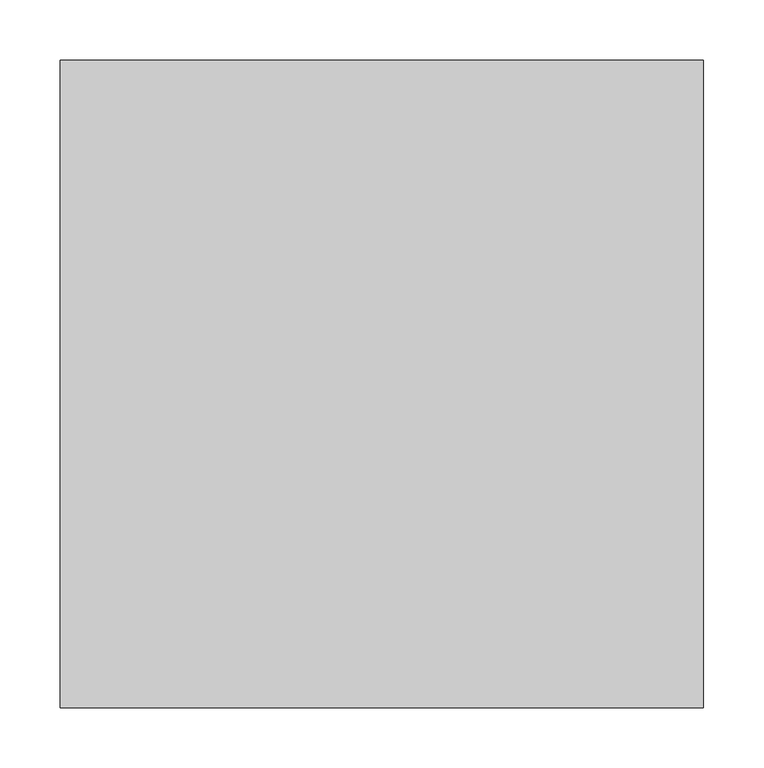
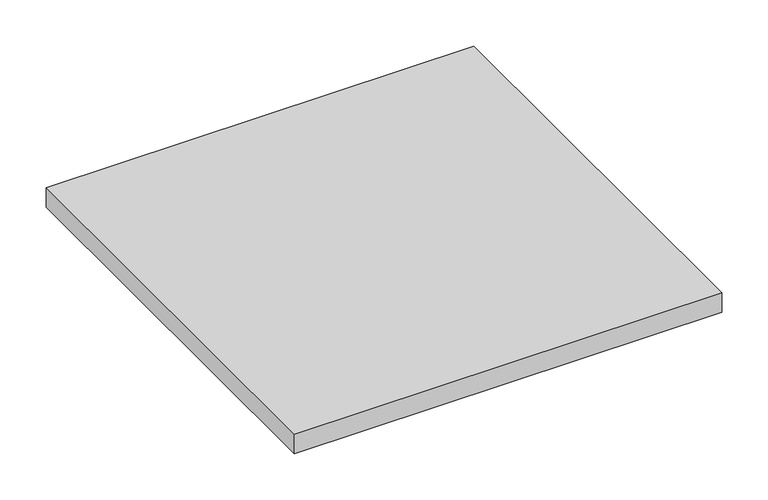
"""IFC4 building model written with IfcOpenShell, lengths in millimetres: furniture geometry."""

import ifcopenshell
import ifcopenshell.guid

model = None  # the IFC model being written
_history = None  # IfcOwnerHistory: only IFC2X3 demands one
_inside = {}  # id of a spatial element -> (the spatial element, [elements in it])
_under = {}  # id of a project, library or spatial element -> (it, [spatial elements below it])
_declared = {}  # id of a project -> (the project, [libraries it declares])
_typed = {}  # id of a type object -> (the type object, [elements of that type])
_made_of = {}  # id of a material, layer set ... -> (it, [elements and type objects made of it])


def new_model(schema):
    """Start an empty IFC model of exactly this schema.

    Asked for "IFC4X3", IfcOpenShell would pick the latest addendum, in which some entities
    have other attributes; the version numbers below select the first issue.
    IFC2X3 requires an IfcOwnerHistory on every rooted entity: one is made here for all.
    """
    global model, _history
    if schema == "IFC4X3":
        model = ifcopenshell.file(schema_version=(4, 3, 0, 0))
    else:
        model = ifcopenshell.file(schema=schema)
    _inside.clear()
    _under.clear()
    _declared.clear()
    _typed.clear()
    _made_of.clear()
    _history = None
    if model.schema == "IFC2X3":
        org = make("IfcOrganization", Name="unknown")
        user = make(
            "IfcPersonAndOrganization",
            ThePerson=make("IfcPerson", FamilyName="unknown"),
            TheOrganization=org,
        )
        app = make(
            "IfcApplication",
            ApplicationDeveloper=org,
            Version="unknown",
            ApplicationFullName="unknown",
            ApplicationIdentifier="unknown",
        )
        _history = make(
            "IfcOwnerHistory",
            OwningUser=user,
            OwningApplication=app,
            ChangeAction="ADDED",
            CreationDate=0,
        )
    return model


def make(cls, **values):
    """One entity of the class cls with the attributes given. An attribute that is None is left unset."""
    return model.create_entity(
        cls, **{name: value for name, value in values.items() if value is not None}
    )


def rooted(cls, **values):
    """An entity with a GlobalId (a new one), such as an element, a storey or a relation."""
    return make(cls, GlobalId=ifcopenshell.guid.new(), OwnerHistory=_history, **values)


def si_unit(unit_type, name, prefix=None):
    """IfcSIUnit, for example si_unit("LENGTHUNIT", "METRE", prefix="MILLI")."""
    return make("IfcSIUnit", UnitType=unit_type, Prefix=prefix, Name=name)


def assignment(units):
    """IfcUnitAssignment: the units of a project."""
    return None if units is None else make("IfcUnitAssignment", Units=units)


def point(xyz):
    """IfcCartesianPoint."""
    return None if xyz is None else make("IfcCartesianPoint", Coordinates=xyz)


def direction(xyz):
    """IfcDirection."""
    return None if xyz is None else make("IfcDirection", DirectionRatios=xyz)


def frame(location, z_axis=None, x_axis=None):
    """IfcAxis2Placement3D, a coordinate frame: its origin and axes. An axis left out is left unset."""
    return make(
        "IfcAxis2Placement3D",
        Location=point(location),
        Axis=direction(z_axis),
        RefDirection=direction(x_axis),
    )


def origin():
    """The frame at (0, 0, 0) with its axes left unset."""
    return frame((0.0, 0.0, 0.0))


def place(relative_to, where):
    """IfcLocalPlacement: puts the frame where relative to a parent placement (None: the world)."""
    return make(
        "IfcLocalPlacement", PlacementRelTo=relative_to, RelativePlacement=where
    )


def context(
    kind, dimensions, precision=None, world=None, true_north=None, identifier=None
):
    """IfcGeometricRepresentationContext, for example the 3D "Model" context."""
    return make(
        "IfcGeometricRepresentationContext",
        ContextIdentifier=identifier,
        ContextType=kind,
        CoordinateSpaceDimension=dimensions,
        Precision=precision,
        WorldCoordinateSystem=world,
        TrueNorth=true_north,
    )


def project(units=None, contexts=None):
    """IfcProject with its units and contexts."""
    return rooted(
        "IfcProject",
        Name="project",
        RepresentationContexts=contexts,
        UnitsInContext=assignment(units),
    )


def spatial(cls, under=None, at=None, **own):
    """A site, building, storey or space (cls), placed at a placement, below another one or the project."""
    s = rooted(cls, ObjectPlacement=at, **own)
    if under is not None:
        _under.setdefault(under.id(), (under, []))[1].append(s)
    return s


def polyline(points):
    """IfcPolyline through the points."""
    return make("IfcPolyline", Points=[point(p) for p in points])


def outline(outer, holes=None, kind="AREA"):
    """IfcArbitraryClosedProfileDef: a profile drawn as a closed curve; with holes, ...WithVoids."""
    if holes is None:
        return make("IfcArbitraryClosedProfileDef", ProfileType=kind, OuterCurve=outer)
    return make(
        "IfcArbitraryProfileDefWithVoids",
        ProfileType=kind,
        OuterCurve=outer,
        InnerCurves=holes,
    )


def extrude(swept, where, along, depth):
    """IfcExtrudedAreaSolid: the profile swept, set in the frame where, extruded along a direction by depth."""
    return make(
        "IfcExtrudedAreaSolid",
        SweptArea=swept,
        Position=where,
        ExtrudedDirection=direction(along),
        Depth=depth,
    )


def shape(context_of_items, identifier, shape_type, items):
    """IfcShapeRepresentation: the items that make up one representation, for example the "Body"."""
    return make(
        "IfcShapeRepresentation",
        ContextOfItems=context_of_items,
        RepresentationIdentifier=identifier,
        RepresentationType=shape_type,
        Items=items,
    )


def source(mapping_origin, context_of_items, identifier, shape_type, items):
    """IfcRepresentationMap: a shape defined once, which mapped items show again and again."""
    return make(
        "IfcRepresentationMap",
        MappingOrigin=mapping_origin,
        MappedRepresentation=shape(context_of_items, identifier, shape_type, items),
    )


def transform(
    local_origin,
    x_axis=None,
    y_axis=None,
    z_axis=None,
    scale=None,
    scale2=None,
    scale3=None,
    uniform=True,
):
    """IfcCartesianTransformationOperator3D, or its non-uniform kind. x_axis, y_axis, z_axis: its Axis1, 2, 3."""
    if uniform:
        return make(
            "IfcCartesianTransformationOperator3D",
            Axis1=direction(x_axis),
            Axis2=direction(y_axis),
            LocalOrigin=point(local_origin),
            Scale=scale,
            Axis3=direction(z_axis),
        )
    return make(
        "IfcCartesianTransformationOperator3DnonUniform",
        Axis1=direction(x_axis),
        Axis2=direction(y_axis),
        LocalOrigin=point(local_origin),
        Scale=scale,
        Axis3=direction(z_axis),
        Scale2=scale2,
        Scale3=scale3,
    )


def mapped(mapping_source, mapping_target):
    """IfcMappedItem: shows the shape of a source again, moved by a transform."""
    return make(
        "IfcMappedItem", MappingSource=mapping_source, MappingTarget=mapping_target
    )


def made_of(thing, what):
    """Note that an element or type object is made of a material, layer set ...; save() writes the relation."""
    if what is not None:
        _made_of.setdefault(what.id(), (what, []))[1].append(thing)
    return thing


def element(
    cls,
    number,
    at=None,
    inside=None,
    cuts=None,
    type_object=None,
    material=None,
    context=None,
    identifier="Body",
    shape_type=None,
    held_by="IfcProductDefinitionShape",
    body=None,
    shapes=None,
    **own,
):
    """One element of the class cls, such as IfcWall. Its Tag is "e" and its number.

    at: its placement. inside: the storey or other place that contains it. cuts: it is an
    opening in that element (IfcRelVoidsElement). A single representation is given by context,
    identifier, shape_type and body (its items); several are given by shapes. held_by: the class
    of the entity that holds the representations. save() writes the other relations.
    """
    e = rooted(cls, Tag="e%d" % number, ObjectPlacement=at, **own)
    if body is not None:
        shapes = [shape(context, identifier, shape_type, body)]
    if shapes is not None:
        e.Representation = make(held_by, Representations=shapes)
    if inside is not None:
        _inside.setdefault(inside.id(), (inside, []))[1].append(e)
    if cuts is not None:
        rooted(
            "IfcRelVoidsElement", RelatingBuildingElement=cuts, RelatedOpeningElement=e
        )
    if type_object is not None:
        _typed.setdefault(type_object.id(), (type_object, []))[1].append(e)
    return made_of(e, material)


def aggregate(whole, parts):
    """IfcRelAggregates: a whole, such as a stair, and the parts it consists of."""
    return rooted("IfcRelAggregates", RelatingObject=whole, RelatedObjects=parts)


def save(model, path):
    """Write the relations noted so far, then the file.

    IfcRelAggregates (storeys below a building ...), IfcRelContainedInSpatialStructure (elements
    in a storey), IfcRelDefinesByType, IfcRelAssociatesMaterial and IfcRelDeclares: one each for
    every whole, place, type object, material and project.
    """
    for whole, parts in _under.values():
        aggregate(whole, parts)
    for where, things in _inside.values():
        rooted(
            "IfcRelContainedInSpatialStructure",
            RelatedElements=things,
            RelatingStructure=where,
        )
    for kind, things in _typed.values():
        rooted("IfcRelDefinesByType", RelatedObjects=things, RelatingType=kind)
    for what, things in _made_of.values():
        rooted("IfcRelAssociatesMaterial", RelatedObjects=things, RelatingMaterial=what)
    for by, libraries in _declared.values():
        rooted("IfcRelDeclares", RelatingContext=by, RelatedDefinitions=libraries)
    model.write(path)


def furniture_05729c69(model_context):
    return source(origin(), model_context, "Body", "SweptSolid", [
        extrude(outline(polyline([(106.5641996, 262.7913812), (-425.2610004, 262.7913812), (-425.2610004, 797.7915812), (106.5641996, 797.7915812), (106.5641996, 262.7913812)])), frame((0.0, 0.0, 635.0), z_axis=(0.0, 0.0, 1.0), x_axis=(1.0, 0.0, 0.0)), (0.0, 0.0, 1.0), 25.4),
    ])


if __name__ == "__main__":
    model = new_model("IFC4")
    model_context = context("Model", 3, world=origin())
    ifc_project = project(units=[si_unit("LENGTHUNIT", "METRE", prefix="MILLI")], contexts=[model_context])
    site = spatial("IfcSite", under=ifc_project)
    building = spatial("IfcBuilding", under=site)
    placement = place(None, origin())
    furniture_shape = furniture_05729c69(model_context)
    element("IfcFurniture", 1, ObjectType="HermanMiller_CoStruc_C5041_StorageCaseShelf : 23\"D x 22\"W", at=placement, inside=building, context=model_context, shape_type="MappedRepresentation", body=[
        mapped(furniture_shape, transform((0.0, 0.0, 0.0), x_axis=(1.0, 0.0, 0.0), y_axis=(0.0, 1.0, 0.0), z_axis=(0.0, 0.0, 1.0))),
    ])
    save(model, "model.ifc")
